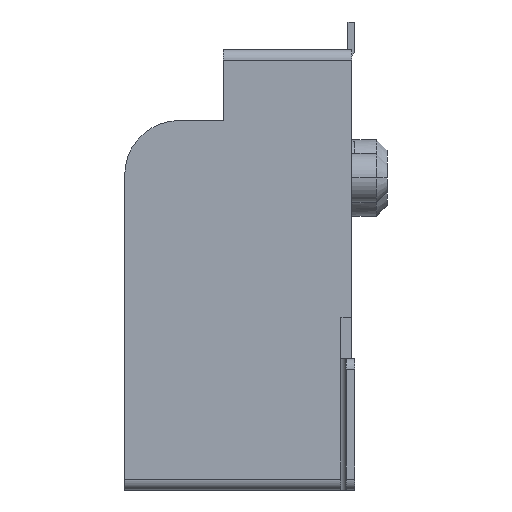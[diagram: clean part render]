
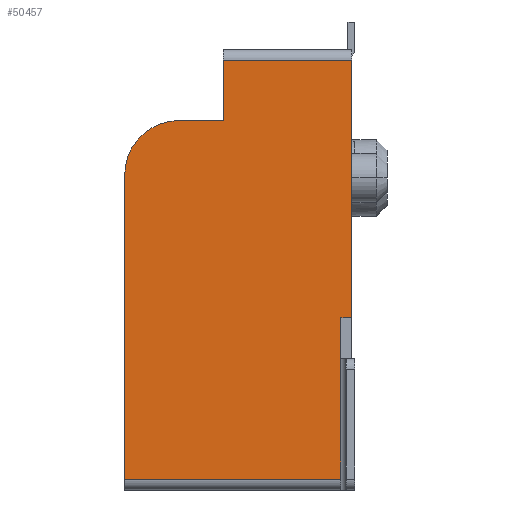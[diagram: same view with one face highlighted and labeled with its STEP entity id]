
A CAD part, left-side view. The second image highlights one B-rep face of the part: STEP entity #50457.
In plain terms, the highlighted planar face has unit normal (-1, 0, 0).
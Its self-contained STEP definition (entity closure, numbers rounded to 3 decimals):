
#2 = CIRCLE ( 'NONE', #6553, 1. ) ;
#718 = EDGE_CURVE ( 'NONE', #50131, #11549, #2, .T. ) ;
#786 = VECTOR ( 'NONE', #29063, 1000. ) ;
#2225 = EDGE_LOOP ( 'NONE', ( #50199, #3309, #23375, #25914, #11887, #38024, #18522, #24610, #44138 ) ) ;
#3292 = VERTEX_POINT ( 'NONE', #21267 ) ;
#3309 = ORIENTED_EDGE ( 'NONE', *, *, #43594, .T. ) ;
#3342 = CARTESIAN_POINT ( 'NONE',  ( -11., -0.6, 0.05 ) ) ;
#3963 = DIRECTION ( 'NONE',  ( 0., 1., 0. ) ) ;
#5216 = DIRECTION ( 'NONE',  ( 0., -1., 0. ) ) ;
#6553 = AXIS2_PLACEMENT_3D ( 'NONE', #38933, #31260, #27191 ) ;
#7051 = PLANE ( 'NONE',  #32916 ) ;
#7919 = CARTESIAN_POINT ( 'NONE',  ( -11., -4.55, -5.5 ) ) ;
#8982 = CARTESIAN_POINT ( 'NONE',  ( -11., -4.55, -2.55 ) ) ;
#9587 = VECTOR ( 'NONE', #25191, 1000. ) ;
#9673 = CARTESIAN_POINT ( 'NONE',  ( -11., -0.6, 0.05 ) ) ;
#10718 = LINE ( 'NONE', #26824, #48260 ) ;
#11002 = EDGE_CURVE ( 'NONE', #45234, #3292, #16010, .T. ) ;
#11217 = CARTESIAN_POINT ( 'NONE',  ( -11., -2.4, 1.05 ) ) ;
#11549 = VERTEX_POINT ( 'NONE', #35231 ) ;
#11887 = ORIENTED_EDGE ( 'NONE', *, *, #16766, .T. ) ;
#13214 = LINE ( 'NONE', #48497, #786 ) ;
#14367 = EDGE_CURVE ( 'NONE', #33426, #11549, #10718, .T. ) ;
#16010 = LINE ( 'NONE', #19334, #39334 ) ;
#16585 = VERTEX_POINT ( 'NONE', #7919 ) ;
#16766 = EDGE_CURVE ( 'NONE', #50131, #27035, #18352, .T. ) ;
#16986 = LINE ( 'NONE', #40299, #9587 ) ;
#18352 = LINE ( 'NONE', #9673, #25677 ) ;
#18522 = ORIENTED_EDGE ( 'NONE', *, *, #47403, .T. ) ;
#18975 = VERTEX_POINT ( 'NONE', #8982 ) ;
#19334 = CARTESIAN_POINT ( 'NONE',  ( -11., -4.75, -2.55 ) ) ;
#21267 = CARTESIAN_POINT ( 'NONE',  ( -11., -4.75, 2.15 ) ) ;
#23375 = ORIENTED_EDGE ( 'NONE', *, *, #14367, .T. ) ;
#23740 = VECTOR ( 'NONE', #5216, 1000. ) ;
#24610 = ORIENTED_EDGE ( 'NONE', *, *, #26922, .F. ) ;
#25191 = DIRECTION ( 'NONE',  ( 0., 0., -1. ) ) ;
#25677 = VECTOR ( 'NONE', #33193, 1000. ) ;
#25914 = ORIENTED_EDGE ( 'NONE', *, *, #718, .F. ) ;
#26743 = CARTESIAN_POINT ( 'NONE',  ( -11., -2.7, -1.675 ) ) ;
#26824 = CARTESIAN_POINT ( 'NONE',  ( -11., -2.4, 1.05 ) ) ;
#26922 = EDGE_CURVE ( 'NONE', #45234, #18975, #13214, .T. ) ;
#27035 = VERTEX_POINT ( 'NONE', #42589 ) ;
#27191 = DIRECTION ( 'NONE',  ( 0., 1., 0. ) ) ;
#27306 = EDGE_CURVE ( 'NONE', #27035, #16585, #32841, .T. ) ;
#28962 = CARTESIAN_POINT ( 'NONE',  ( -11., -4.55, -5.5 ) ) ;
#29063 = DIRECTION ( 'NONE',  ( 0., 1., 0. ) ) ;
#29518 = CARTESIAN_POINT ( 'NONE',  ( -11., -0.6, -5.5 ) ) ;
#31080 = FACE_OUTER_BOUND ( 'NONE', #2225, .T. ) ;
#31260 = DIRECTION ( 'NONE',  ( 1., 0., 0. ) ) ;
#31802 = VECTOR ( 'NONE', #49150, 1000. ) ;
#32814 = CARTESIAN_POINT ( 'NONE',  ( -11., -4.75, -2.55 ) ) ;
#32841 = LINE ( 'NONE', #29518, #23740 ) ;
#32916 = AXIS2_PLACEMENT_3D ( 'NONE', #26743, #38241, #3963 ) ;
#33193 = DIRECTION ( 'NONE',  ( 0., 0., -1. ) ) ;
#33426 = VERTEX_POINT ( 'NONE', #11217 ) ;
#33621 = CARTESIAN_POINT ( 'NONE',  ( -11., -2.4, 2.15 ) ) ;
#35231 = CARTESIAN_POINT ( 'NONE',  ( -11., -1.6, 1.05 ) ) ;
#35380 = EDGE_CURVE ( 'NONE', #3292, #40076, #41743, .T. ) ;
#37026 = VECTOR ( 'NONE', #38139, 1000. ) ;
#38024 = ORIENTED_EDGE ( 'NONE', *, *, #27306, .T. ) ;
#38139 = DIRECTION ( 'NONE',  ( 0., 1., 0. ) ) ;
#38241 = DIRECTION ( 'NONE',  ( 1., 0., 0. ) ) ;
#38933 = CARTESIAN_POINT ( 'NONE',  ( -11., -1.6, 0.05 ) ) ;
#39334 = VECTOR ( 'NONE', #46726, 1000. ) ;
#40076 = VERTEX_POINT ( 'NONE', #33621 ) ;
#40299 = CARTESIAN_POINT ( 'NONE',  ( -11., -2.4, 2.15 ) ) ;
#40710 = LINE ( 'NONE', #28962, #31802 ) ;
#41743 = LINE ( 'NONE', #49407, #37026 ) ;
#42423 = DIRECTION ( 'NONE',  ( 0., 1., 0. ) ) ;
#42589 = CARTESIAN_POINT ( 'NONE',  ( -11., -0.6, -5.5 ) ) ;
#43594 = EDGE_CURVE ( 'NONE', #40076, #33426, #16986, .T. ) ;
#44138 = ORIENTED_EDGE ( 'NONE', *, *, #11002, .T. ) ;
#45234 = VERTEX_POINT ( 'NONE', #32814 ) ;
#46726 = DIRECTION ( 'NONE',  ( 0., 0., 1. ) ) ;
#47403 = EDGE_CURVE ( 'NONE', #16585, #18975, #40710, .T. ) ;
#48260 = VECTOR ( 'NONE', #42423, 1000. ) ;
#48497 = CARTESIAN_POINT ( 'NONE',  ( -11., -4.75, -2.55 ) ) ;
#49150 = DIRECTION ( 'NONE',  ( 0., 0., 1. ) ) ;
#49407 = CARTESIAN_POINT ( 'NONE',  ( -11., -4.75, 2.15 ) ) ;
#50131 = VERTEX_POINT ( 'NONE', #3342 ) ;
#50199 = ORIENTED_EDGE ( 'NONE', *, *, #35380, .T. ) ;
#50457 = ADVANCED_FACE ( 'NONE', ( #31080 ), #7051, .F. ) ;
